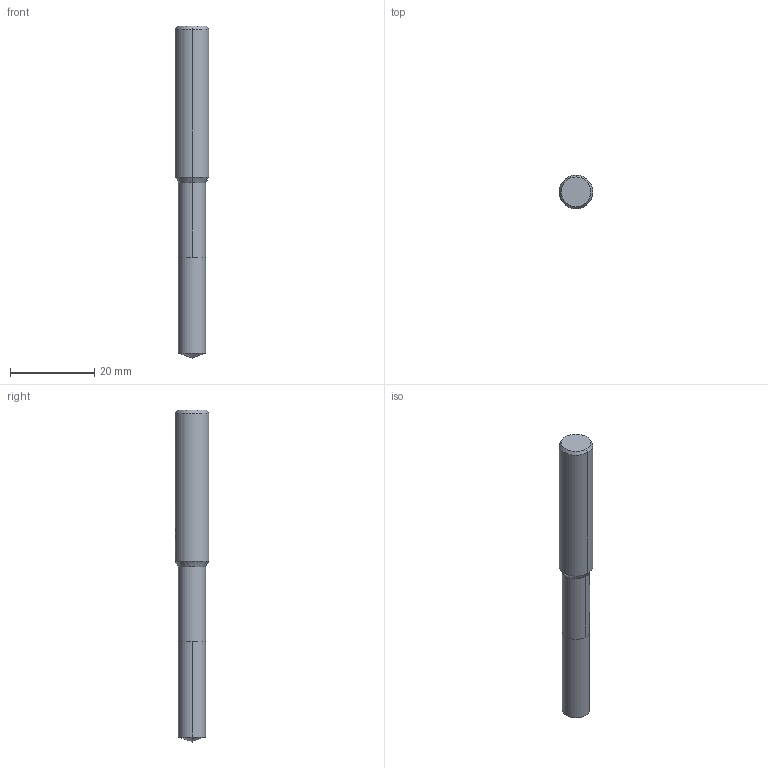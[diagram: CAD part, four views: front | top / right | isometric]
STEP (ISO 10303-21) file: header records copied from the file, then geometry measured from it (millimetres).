
FILE_DESCRIPTION(('no description'),'unknown implementation level');
FILE_NAME('solidcJzYGa3x7zzvovnvKClz2fIvwe8_1.STP',' ',('CIMSOURCE GmbH'),('CADClick - KiM GmbH - www.kimweb.de'),'unknown preprocess','ACIS','unknown authorization');
FILE_SCHEMA(('automotive_design'));
Length unit declared in the file: millimetre
Products named in the file (2): NOCUT; CUT
Bounding box: 8 x 8 x 79 mm (x, y, z)
Volume: 3216 mm3; surface area: 1910.5 mm2
Topology: 2 solids, 2 shells, 28 faces, 67 edges, 41 vertices
Faces by surface type: cylinder 14, plane 8, cone 6
Entity records: 1811 total; most frequent: CARTESIAN_POINT 368, DIRECTION 139, STYLED_ITEM 136, PRESENTATION_STYLE_ASSIGNMENT 136, COLOUR_RGB 136, ORIENTED_EDGE 130, EDGE_CURVE 65, CURVE_STYLE 65
